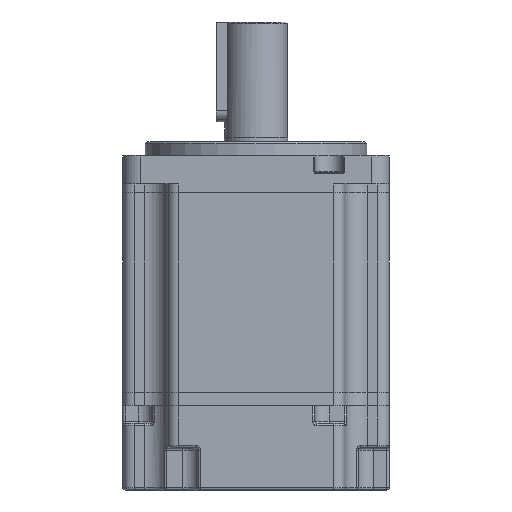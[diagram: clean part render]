
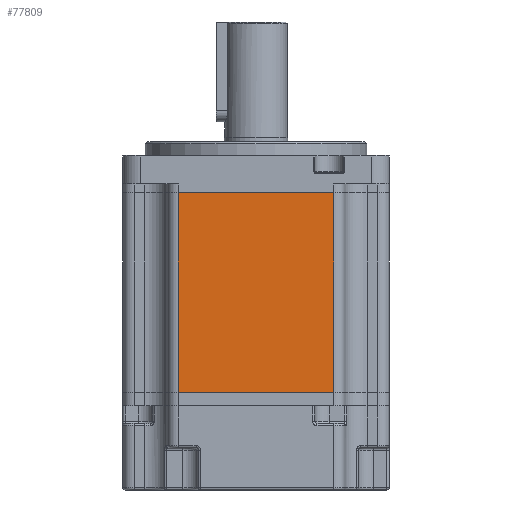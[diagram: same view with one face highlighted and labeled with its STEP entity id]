
A CAD part, front view. The second image highlights one B-rep face of the part: STEP entity #77809.
In plain terms, the highlighted planar face has unit normal (0, -1, 0).
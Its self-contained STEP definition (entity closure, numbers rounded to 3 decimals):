
#7201 = CARTESIAN_POINT ( 'NONE',  ( 17.55, -30., 0. ) ) ;
#11781 = CARTESIAN_POINT ( 'NONE',  ( -17.55, -30., 45. ) ) ;
#14339 = CARTESIAN_POINT ( 'NONE',  ( 17.55, -30., 0. ) ) ;
#14759 = DIRECTION ( 'NONE',  ( 0., 0., -1. ) ) ;
#16406 = LINE ( 'NONE', #11781, #55188 ) ;
#20255 = ORIENTED_EDGE ( 'NONE', *, *, #40293, .T. ) ;
#27436 = VERTEX_POINT ( 'NONE', #118933 ) ;
#32637 = FACE_OUTER_BOUND ( 'NONE', #102514, .T. ) ;
#33523 = EDGE_CURVE ( 'NONE', #35951, #124121, #107256, .T. ) ;
#33693 = VERTEX_POINT ( 'NONE', #52941 ) ;
#35951 = VERTEX_POINT ( 'NONE', #117818 ) ;
#40271 = VECTOR ( 'NONE', #76314, 1000. ) ;
#40293 = EDGE_CURVE ( 'NONE', #27436, #35951, #16406, .T. ) ;
#43017 = LINE ( 'NONE', #93564, #64561 ) ;
#48088 = CARTESIAN_POINT ( 'NONE',  ( 17.55, -30., 45. ) ) ;
#52941 = CARTESIAN_POINT ( 'NONE',  ( 17.55, -30., 45. ) ) ;
#55188 = VECTOR ( 'NONE', #110884, 1000. ) ;
#58365 = ORIENTED_EDGE ( 'NONE', *, *, #114730, .F. ) ;
#64561 = VECTOR ( 'NONE', #14759, 1000. ) ;
#75901 = CARTESIAN_POINT ( 'NONE',  ( 17.55, -30., 45. ) ) ;
#76314 = DIRECTION ( 'NONE',  ( 1., 0., 0. ) ) ;
#77809 = ADVANCED_FACE ( 'NONE', ( #32637 ), #107358, .F. ) ;
#80060 = DIRECTION ( 'NONE',  ( 0., 0., 1. ) ) ;
#80955 = VECTOR ( 'NONE', #95961, 1000. ) ;
#83938 = AXIS2_PLACEMENT_3D ( 'NONE', #48088, #117289, #80060 ) ;
#93564 = CARTESIAN_POINT ( 'NONE',  ( 17.55, -30., 45. ) ) ;
#95961 = DIRECTION ( 'NONE',  ( 1., 0., 0. ) ) ;
#98372 = EDGE_CURVE ( 'NONE', #33693, #124121, #43017, .T. ) ;
#102514 = EDGE_LOOP ( 'NONE', ( #105540, #119711, #58365, #20255 ) ) ;
#105540 = ORIENTED_EDGE ( 'NONE', *, *, #33523, .T. ) ;
#107256 = LINE ( 'NONE', #7201, #80955 ) ;
#107358 = PLANE ( 'NONE',  #83938 ) ;
#110884 = DIRECTION ( 'NONE',  ( 0., 0., -1. ) ) ;
#113172 = LINE ( 'NONE', #75901, #40271 ) ;
#114730 = EDGE_CURVE ( 'NONE', #27436, #33693, #113172, .T. ) ;
#117289 = DIRECTION ( 'NONE',  ( 0., 1., 0. ) ) ;
#117818 = CARTESIAN_POINT ( 'NONE',  ( -17.55, -30., 0. ) ) ;
#118933 = CARTESIAN_POINT ( 'NONE',  ( -17.55, -30., 45. ) ) ;
#119711 = ORIENTED_EDGE ( 'NONE', *, *, #98372, .F. ) ;
#124121 = VERTEX_POINT ( 'NONE', #14339 ) ;
